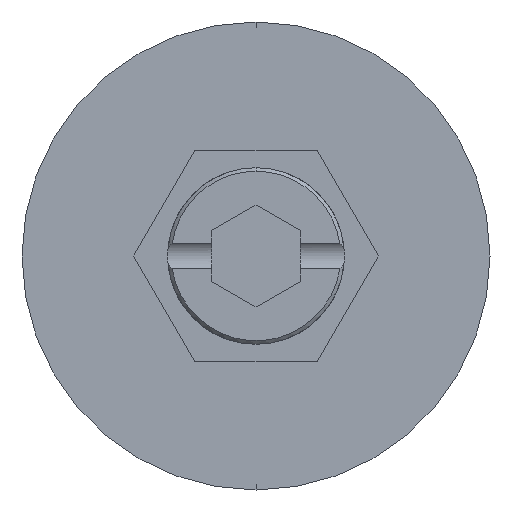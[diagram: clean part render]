
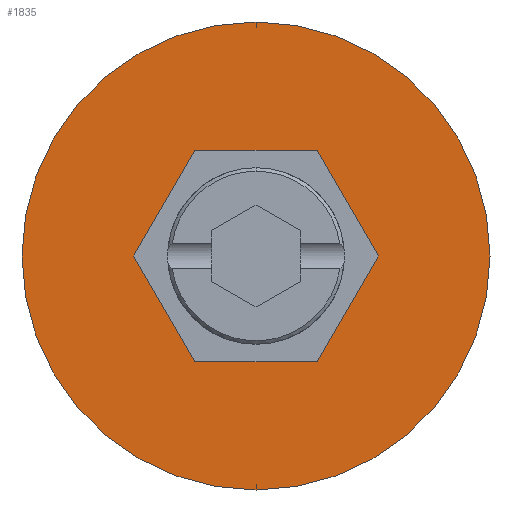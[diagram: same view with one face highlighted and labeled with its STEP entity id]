
A CAD part, front view. The second image highlights one B-rep face of the part: STEP entity #1835.
In plain terms, the highlighted planar face has unit normal (0, -1, 0).
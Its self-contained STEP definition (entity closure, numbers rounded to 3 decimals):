
#13 = ORIENTED_EDGE ( 'NONE', *, *, #563, .F. ) ;
#17 = CARTESIAN_POINT ( 'NONE',  ( 3.464, 0., 6. ) ) ;
#25 = DIRECTION ( 'NONE',  ( 0., -1., 0. ) ) ;
#62 = LINE ( 'NONE', #766, #893 ) ;
#144 = ORIENTED_EDGE ( 'NONE', *, *, #394, .F. ) ;
#174 = DIRECTION ( 'NONE',  ( 0.5, 0., -0.866 ) ) ;
#180 = CARTESIAN_POINT ( 'NONE',  ( 6.928, 0., 0. ) ) ;
#233 = DIRECTION ( 'NONE',  ( 1., 0., 0. ) ) ;
#240 = DIRECTION ( 'NONE',  ( -0.5, 0., -0.866 ) ) ;
#308 = ORIENTED_EDGE ( 'NONE', *, *, #630, .T. ) ;
#355 = CARTESIAN_POINT ( 'NONE',  ( 0., 0., -13.25 ) ) ;
#357 = CIRCLE ( 'NONE', #1335, 13.25 ) ;
#364 = CARTESIAN_POINT ( 'NONE',  ( -3.464, 0., 6. ) ) ;
#391 = ORIENTED_EDGE ( 'NONE', *, *, #1223, .F. ) ;
#394 = EDGE_CURVE ( 'NONE', #1802, #1083, #1739, .T. ) ;
#412 = CARTESIAN_POINT ( 'NONE',  ( 3.464, 0., -6. ) ) ;
#414 = CARTESIAN_POINT ( 'NONE',  ( 3.464, 0., 6. ) ) ;
#423 = CARTESIAN_POINT ( 'NONE',  ( -3.464, 0., 6. ) ) ;
#454 = ORIENTED_EDGE ( 'NONE', *, *, #2124, .T. ) ;
#526 = EDGE_CURVE ( 'NONE', #1283, #1120, #749, .T. ) ;
#529 = EDGE_LOOP ( 'NONE', ( #13, #1957, #1395, #1474, #144, #391 ) ) ;
#548 = CARTESIAN_POINT ( 'NONE',  ( 0., 0., 0. ) ) ;
#563 = EDGE_CURVE ( 'NONE', #1487, #656, #62, .T. ) ;
#630 = EDGE_CURVE ( 'NONE', #1741, #1353, #785, .T. ) ;
#643 = FACE_BOUND ( 'NONE', #529, .T. ) ;
#656 = VERTEX_POINT ( 'NONE', #1342 ) ;
#749 = LINE ( 'NONE', #423, #1054 ) ;
#766 = CARTESIAN_POINT ( 'NONE',  ( -3.464, 0., -6. ) ) ;
#785 = CIRCLE ( 'NONE', #1245, 13.25 ) ;
#840 = VECTOR ( 'NONE', #937, 1000. ) ;
#850 = VECTOR ( 'NONE', #1458, 1000. ) ;
#879 = CARTESIAN_POINT ( 'NONE',  ( 6.928, 0., 0. ) ) ;
#893 = VECTOR ( 'NONE', #233, 1000. ) ;
#922 = CARTESIAN_POINT ( 'NONE',  ( 0., 0., 13.25 ) ) ;
#937 = DIRECTION ( 'NONE',  ( -1., 0., 0. ) ) ;
#967 = CARTESIAN_POINT ( 'NONE',  ( -3.464, 0., -6. ) ) ;
#997 = CARTESIAN_POINT ( 'NONE',  ( 0., 0., 0. ) ) ;
#1000 = DIRECTION ( 'NONE',  ( 0., -1., 0. ) ) ;
#1054 = VECTOR ( 'NONE', #240, 1000. ) ;
#1058 = FACE_OUTER_BOUND ( 'NONE', #2144, .T. ) ;
#1079 = PLANE ( 'NONE',  #1391 ) ;
#1083 = VERTEX_POINT ( 'NONE', #17 ) ;
#1085 = DIRECTION ( 'NONE',  ( -0.5, 0., 0.866 ) ) ;
#1120 = VERTEX_POINT ( 'NONE', #1255 ) ;
#1169 = VECTOR ( 'NONE', #174, 1000. ) ;
#1174 = DIRECTION ( 'NONE',  ( 0., 0., -1. ) ) ;
#1223 = EDGE_CURVE ( 'NONE', #656, #1802, #1657, .T. ) ;
#1245 = AXIS2_PLACEMENT_3D ( 'NONE', #2199, #1000, #2025 ) ;
#1255 = CARTESIAN_POINT ( 'NONE',  ( -6.928, 0., 0. ) ) ;
#1258 = DIRECTION ( 'NONE',  ( 0., 0., -1. ) ) ;
#1279 = VECTOR ( 'NONE', #1085, 1000. ) ;
#1283 = VERTEX_POINT ( 'NONE', #364 ) ;
#1286 = LINE ( 'NONE', #1906, #1169 ) ;
#1301 = LINE ( 'NONE', #414, #840 ) ;
#1335 = AXIS2_PLACEMENT_3D ( 'NONE', #997, #2197, #1174 ) ;
#1342 = CARTESIAN_POINT ( 'NONE',  ( 3.464, 0., -6. ) ) ;
#1353 = VERTEX_POINT ( 'NONE', #922 ) ;
#1391 = AXIS2_PLACEMENT_3D ( 'NONE', #548, #25, #1258 ) ;
#1395 = ORIENTED_EDGE ( 'NONE', *, *, #526, .F. ) ;
#1458 = DIRECTION ( 'NONE',  ( 0.5, 0., 0.866 ) ) ;
#1474 = ORIENTED_EDGE ( 'NONE', *, *, #1935, .F. ) ;
#1487 = VERTEX_POINT ( 'NONE', #967 ) ;
#1657 = LINE ( 'NONE', #412, #850 ) ;
#1738 = EDGE_CURVE ( 'NONE', #1120, #1487, #1286, .T. ) ;
#1739 = LINE ( 'NONE', #879, #1279 ) ;
#1741 = VERTEX_POINT ( 'NONE', #355 ) ;
#1802 = VERTEX_POINT ( 'NONE', #180 ) ;
#1835 = ADVANCED_FACE ( 'NONE', ( #643, #1058 ), #1079, .T. ) ;
#1906 = CARTESIAN_POINT ( 'NONE',  ( -6.928, 0., 0. ) ) ;
#1935 = EDGE_CURVE ( 'NONE', #1083, #1283, #1301, .T. ) ;
#1957 = ORIENTED_EDGE ( 'NONE', *, *, #1738, .F. ) ;
#2025 = DIRECTION ( 'NONE',  ( 0., 0., -1. ) ) ;
#2124 = EDGE_CURVE ( 'NONE', #1353, #1741, #357, .T. ) ;
#2144 = EDGE_LOOP ( 'NONE', ( #308, #454 ) ) ;
#2197 = DIRECTION ( 'NONE',  ( 0., -1., 0. ) ) ;
#2199 = CARTESIAN_POINT ( 'NONE',  ( 0., 0., 0. ) ) ;
